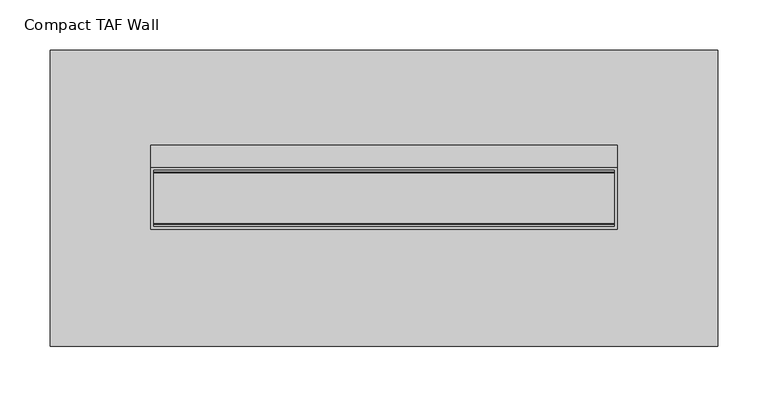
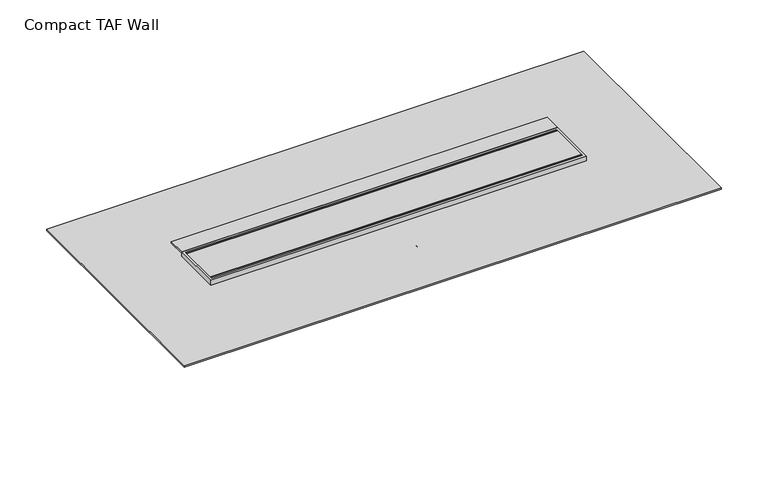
"""IFC4 building model written with IfcOpenShell, lengths in millimetres: sanitary terminal geometry, NLRS_PF_52_UN_Compact TAF_Easydrain : Compact TAF Wall."""

from ifc_helpers import new_model, si_unit, frame, origin, place, context, project, spatial, polyline, circle_curve, ellipse_curve, outline, extrude, source, transform, mapped, element, save
from ifc_brep_helpers import plane_surface, cylinder_surface, advanced_brep


def compact_taf_wall_d03a32f8(model_context):
    return source(origin(), model_context, "Body", "SolidModel", [
        extrude(outline(polyline([(229.5, 25.0), (229.5, -25.0), (-229.5, -25.0), (-229.5, 25.0), (229.5, 25.0)])), frame((0.0, 0.0, -12.0), z_axis=(0.0, 0.0, 1.0), x_axis=(1.0, 0.0, 0.0)), (0.0, 0.0, 1.0), 12.0),
        extrude(outline(polyline([(229.5, 26.0), (229.5, 25.0), (-229.5, 25.0), (-229.5, 26.0), (229.5, 26.0)])), frame((0.0, 0.0, -12.0), z_axis=(0.0, 0.0, 1.0), x_axis=(1.0, 0.0, 0.0)), (0.0, 0.0, 1.0), 12.0),
        extrude(outline(polyline([(229.5, -26.0), (-229.5, -26.0), (-229.5, -25.0), (229.5, -25.0), (229.5, -26.0)])), frame((0.0, 0.0, -12.0), z_axis=(0.0, 0.0, 1.0), x_axis=(1.0, 0.0, 0.0)), (0.0, 0.0, 1.0), 12.0),
        extrude(outline(polyline([(232.5, 53.0), (232.5, 31.0), (-232.5, 31.0), (-232.5, 53.0), (232.5, 53.0)])), frame((0.0, 0.0, -2.0), z_axis=(0.0, 0.0, 1.0), x_axis=(1.0, 0.0, 0.0)), (0.0, 0.0, 1.0), 2.0),
        extrude(outline(polyline([(332.5, 147.5), (332.5, -147.5), (-332.5, -147.5), (-332.5, 147.5), (332.5, 147.5)]), holes=[polyline([(232.5, 31.0), (-232.5, 31.0), (-232.5, -31.0), (232.5, -31.0), (232.5, 31.0)])]), frame((0.0, 0.0, -8.0), z_axis=(0.0, 0.0, 1.0), x_axis=(1.0, 0.0, 0.0)), (0.0, 0.0, 1.0), 2.0),
        advanced_brep(
        [(-232.5, -31.0, -25.0), (-110.0, -31.0, -27.0), (-110.0, -31.0, -90.0), (110.0, -31.0, -90.0), (110.0, -31.0, -27.0), (232.5, -31.0, -25.0), (232.5, -31.0, -9.0), (-232.5, -31.0, -9.0), (0.0, -31.0, -30.0), (0.0, -31.0, -80.0), (232.5, -31.0, 0.0), (-232.5, -31.0, 0.0), (-232.5, -31.0, -7.0), (232.5, -31.0, -7.0), (-232.5, 31.0, 0.0), (232.5, 31.0, 0.0), (232.5, 31.0, -7.0), (-232.5, 31.0, -7.0), (232.5, 31.0, -25.0), (110.0, 31.0, -27.0), (110.0, 31.0, -90.0), (-110.0, 31.0, -90.0), (-110.0, 31.0, -27.0), (-232.5, 31.0, -25.0), (-232.5, 31.0, -9.0), (232.5, 31.0, -9.0), (-212.5, 0.0, -25.3265306), (-172.5, 0.0, -25.9795918), (232.5, 30.0, -9.0), (232.5, -30.0, -9.0), (232.5, -30.0, -7.0), (232.5, 30.0, -7.0), (-229.5, 28.0, 0.0), (229.5, 28.0, 0.0), (229.5, -28.0, 0.0), (-229.5, -28.0, 0.0), (-232.5, -30.0, -9.0), (-232.5, 30.0, -9.0), (-232.5, 30.0, -7.0), (-232.5, -30.0, -7.0), (172.5, 0.0, -25.9795918), (212.5, 0.0, -25.3265306), (0.0, -50.0, -30.0), (0.0, -50.0, -80.0), (229.5, 28.0, -12.0), (-229.5, 28.0, -12.0), (-229.5, -28.0, -12.0), (229.5, -28.0, -12.0), (250.0, 47.5, -7.0), (-250.0, 47.5, -7.0), (-250.0, -64.5, -7.0), (250.0, -64.5, -7.0), (250.0, 47.5, -9.0), (250.0, -64.5, -9.0), (-250.0, -64.5, -9.0), (-250.0, 47.5, -9.0), (-212.5, 0.0, -90.0), (-172.5, 0.0, -90.0), (172.5, 0.0, -90.0), (212.5, 0.0, -90.0)],
        [
            (0, 1),
            (1, 2),
            (2, 3),
            (3, 4),
            (4, 5),
            (5, 6),
            (6, 7),
            (7, 0),
            (8, 9, circle_curve(frame((0.0, -31.0, -55.0), z_axis=(0.0, 1.0, 0.0), x_axis=(0.0, 0.0, -1.0)), 25.0)),
            (9, 8, circle_curve(frame((0.0, -31.0, -55.0), z_axis=(0.0, 1.0, 0.0), x_axis=(0.0, 0.0, -1.0)), 25.0)),
            (10, 11),
            (11, 12),
            (12, 13),
            (13, 10),
            (14, 15),
            (15, 16),
            (16, 17),
            (17, 14),
            (18, 19),
            (19, 20),
            (20, 21),
            (21, 22),
            (22, 23),
            (23, 24),
            (24, 25),
            (25, 18),
            (0, 23),
            (22, 1),
            (26, 27, ellipse_curve(frame((-192.5, 0.0, -25.6530612), z_axis=(0.01632435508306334, 0.0, 0.9998667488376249), x_axis=(-0.9998667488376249, 0.0, 0.01632435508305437)), 20.0026654, 20.0)),
            (27, 26, ellipse_curve(frame((-192.5, 0.0, -25.6530612), z_axis=(0.01632435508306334, 0.0, 0.9998667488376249), x_axis=(-0.9998667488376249, 0.0, 0.01632435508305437)), 20.0026654, 20.0)),
            (5, 18),
            (25, 28),
            (28, 29),
            (29, 6),
            (15, 10),
            (13, 30),
            (30, 31),
            (31, 16),
            (14, 11),
            (32, 33),
            (33, 34),
            (34, 35),
            (35, 32),
            (7, 36),
            (36, 37),
            (37, 24),
            (17, 38),
            (38, 39),
            (39, 12),
            (21, 2),
            (20, 3),
            (19, 4),
            (40, 41, ellipse_curve(frame((192.5, 0.0, -25.6530612), z_axis=(-0.016324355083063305, 0.0, 0.9998667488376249), x_axis=(0.9998667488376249, 0.0, 0.016324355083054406)), 20.0026654, 20.0)),
            (41, 40, ellipse_curve(frame((192.5, 0.0, -25.6530612), z_axis=(-0.016324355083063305, 0.0, 0.9998667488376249), x_axis=(0.9998667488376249, 0.0, 0.016324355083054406)), 20.0026654, 20.0)),
            (42, 43, circle_curve(frame((0.0, -50.0, -55.0), z_axis=(0.0, -1.0, 0.0), x_axis=(0.0, 0.0, -1.0)), 25.0)),
            (43, 42, circle_curve(frame((0.0, -50.0, -55.0), z_axis=(0.0, -1.0, 0.0), x_axis=(0.0, 0.0, -1.0)), 25.0)),
            (43, 9),
            (8, 42),
            (44, 45),
            (45, 46),
            (46, 47),
            (47, 44),
            (44, 33),
            (32, 45),
            (35, 46),
            (34, 47),
            (48, 49),
            (49, 50),
            (50, 51),
            (51, 48),
            (52, 53),
            (53, 54),
            (54, 55),
            (55, 52),
            (48, 52),
            (55, 49),
            (54, 50),
            (53, 51),
            (56, 57, circle_curve(frame((-192.5, 0.0, -90.0), z_axis=(0.0, 0.0, -1.0), x_axis=(1.0, 0.0, 0.0)), 20.0)),
            (57, 56, circle_curve(frame((-192.5, 0.0, -90.0), z_axis=(0.0, 0.0, -1.0), x_axis=(1.0, 0.0, 0.0)), 20.0)),
            (58, 59, circle_curve(frame((192.5, 0.0, -90.0), z_axis=(0.0, 0.0, -1.0), x_axis=(1.0, 0.0, 0.0)), 20.0)),
            (59, 58, circle_curve(frame((192.5, 0.0, -90.0), z_axis=(0.0, 0.0, -1.0), x_axis=(1.0, 0.0, 0.0)), 20.0)),
            (57, 27),
            (26, 56),
            (59, 41),
            (40, 58),
        ],
        [
            plane_surface(frame((-232.5, -31.0, -25.0), z_axis=(0.0, -1.0000000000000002, 0.0), x_axis=(0.9998667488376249, 0.0, -0.01632435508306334))),
            plane_surface(frame((-232.5, 31.0, -25.0), z_axis=(0.0, 1.0000000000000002, 0.0), x_axis=(-0.9998667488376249, 0.0, 0.01632435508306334))),
            plane_surface(frame((-232.5, -31.0, -25.0), z_axis=(-0.01632435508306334, 0.0, -0.9998667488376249), x_axis=(0.0, 1.0, 0.0))),
            plane_surface(frame((232.5, -31.0, -25.0), z_axis=(1.0, 0.0, 0.0), x_axis=(0.0, 1.0, 0.0))),
            plane_surface(frame((232.5, -31.0, 0.0), z_axis=(0.0, 0.0, 1.0), x_axis=(0.0, 1.0, 0.0))),
            plane_surface(frame((-232.5, -31.0, 0.0), z_axis=(-1.0, 0.0, 0.0), x_axis=(0.0, 1.0, 0.0))),
            plane_surface(frame((-110.0, -31.0, -27.0), z_axis=(-1.0, 0.0, 0.0), x_axis=(0.0, 1.0, 0.0))),
            plane_surface(frame((-110.0, -31.0, -90.0), z_axis=(0.0, 0.0, -1.0), x_axis=(0.0, 1.0, 0.0))),
            plane_surface(frame((110.0, -31.0, -90.0), z_axis=(1.0, 0.0, 0.0), x_axis=(0.0, 1.0, 0.0))),
            plane_surface(frame((110.0, -31.0, -27.0), z_axis=(0.016324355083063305, 0.0, -0.9998667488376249), x_axis=(0.0, 1.0, 0.0))),
            plane_surface(frame((0.0, -50.0, -55.0), z_axis=(0.0, -1.0, 0.0), x_axis=(1.0, 0.0, 0.0))),
            cylinder_surface(frame((0.0, 0.0, -55.0), z_axis=(0.0, 1.0, 0.0), x_axis=(0.0, 0.0, -1.0)), 25.0),
            plane_surface(frame((-229.5, 28.0, -12.0), z_axis=(0.0, 0.0, 1.0), x_axis=(1.0, 0.0, 0.0))),
            plane_surface(frame((229.5, 28.0, 25.5943996), z_axis=(0.0, -1.0, 0.0), x_axis=(0.0, 0.0, -1.0))),
            plane_surface(frame((-229.5, 28.0, 25.5943996), z_axis=(1.0, 0.0, 0.0), x_axis=(0.0, 0.0, -1.0))),
            plane_surface(frame((-229.5, -28.0, 25.5943996), z_axis=(0.0, 1.0, 0.0), x_axis=(0.0, 0.0, -1.0))),
            plane_surface(frame((229.5, -28.0, 25.5943996), z_axis=(-1.0, 0.0, 0.0), x_axis=(0.0, 0.0, -1.0))),
            plane_surface(frame((232.5, 30.0, -7.0), z_axis=(0.0, 0.0, 1.0), x_axis=(0.0, -1.0, 0.0))),
            plane_surface(frame((232.5, 30.0, -9.0), z_axis=(0.0, 0.0, -1.0), x_axis=(0.0, 1.0, 0.0))),
            plane_surface(frame((250.0, 47.5, -7.0), z_axis=(0.0, 1.0, 0.0), x_axis=(0.0, 0.0, -1.0))),
            plane_surface(frame((-250.0, 47.5, -7.0), z_axis=(-1.0, 0.0, 0.0), x_axis=(0.0, 0.0, -1.0))),
            plane_surface(frame((-250.0, -64.5, -7.0), z_axis=(0.0, -1.0, 0.0), x_axis=(0.0, 0.0, -1.0))),
            plane_surface(frame((250.0, -64.5, -7.0), z_axis=(1.0, 0.0, 0.0), x_axis=(0.0, 0.0, -1.0))),
            plane_surface(frame((-172.5, 0.0, -90.0), z_axis=(0.0, 0.0, -1.0), x_axis=(0.0, -1.0, 0.0))),
            cylinder_surface(frame((-192.5, 0.0, -90.0), z_axis=(0.0, 0.0, 1.0), x_axis=(1.0, 0.0, 0.0)), 20.0),
            cylinder_surface(frame((192.5, 0.0, 0.0), z_axis=(0.0, 0.0, 1.0), x_axis=(1.0, 0.0, 0.0)), 20.0),
        ],
        [
            (0, [[1, 2, 3, 4, 5, 6, 7, 8], [9, 10]]),
            (0, [[11, 12, 13, 14]]),
            (1, [[15, 16, 17, 18]]),
            (1, [[19, 20, 21, 22, 23, 24, 25, 26]]),
            (2, [[-1, 27, -23, 28], [29, 30]]),
            (3, [[31, -26, 32, 33, 34, -6]]),
            (3, [[35, -14, 36, 37, 38, -16]]),
            (4, [[-11, -35, -15, 39], [40, 41, 42, 43]]),
            (5, [[-27, -8, 44, 45, 46, -24]]),
            (5, [[-39, -18, 47, 48, 49, -12]]),
            (6, [[-2, -28, -22, 50]]),
            (7, [[-3, -50, -21, 51]]),
            (8, [[-4, -51, -20, 52]]),
            (9, [[-5, -52, -19, -31], [53, 54]]),
            (10, [[55, 56]]),
            (11, [[-56, 57, -9, 58]]),
            (11, [[-55, -58, -10, -57]]),
            (12, [[59, 60, 61, 62]]),
            (13, [[-59, 63, -40, 64]]),
            (14, [[-60, -64, -43, 65]]),
            (15, [[-61, -65, -42, 66]]),
            (16, [[-62, -66, -41, -63]]),
            (17, [[67, 68, 69, 70], [-13, -49, -48, -47, -17, -38, -37, -36]]),
            (18, [[71, 72, 73, 74], [-7, -34, -33, -32, -25, -46, -45, -44]]),
            (19, [[-67, 75, -74, 76]]),
            (20, [[-68, -76, -73, 77]]),
            (21, [[-69, -77, -72, 78]]),
            (22, [[-70, -78, -71, -75]]),
            (23, [[79, 80]]),
            (23, [[81, 82]]),
            (24, [[-80, 83, -29, 84]]),
            (24, [[-79, -84, -30, -83]]),
            (25, [[-82, 85, -53, 86]]),
            (25, [[-81, -86, -54, -85]]),
        ],
    ),
    ])


if __name__ == "__main__":
    model = new_model("IFC4")
    model_context = context("Model", 3, world=origin())
    ifc_project = project(units=[si_unit("LENGTHUNIT", "METRE", prefix="MILLI")], contexts=[model_context])
    site = spatial("IfcSite", under=ifc_project)
    building = spatial("IfcBuilding", under=site)
    placement = place(None, origin())
    compact_taf_wall_shape = compact_taf_wall_d03a32f8(model_context)
    element("IfcSanitaryTerminal", 1, ObjectType="NLRS_PF_52_UN_Compact TAF_Easydrain : Compact TAF Wall", at=placement, inside=building, context=model_context, shape_type="MappedRepresentation", body=[
        mapped(compact_taf_wall_shape, transform((0.0, 0.0, 0.0), x_axis=(1.0, 0.0, 0.0), y_axis=(0.0, 1.0, 0.0), z_axis=(0.0, 0.0, 1.0))),
    ])
    save(model, "model.ifc")
